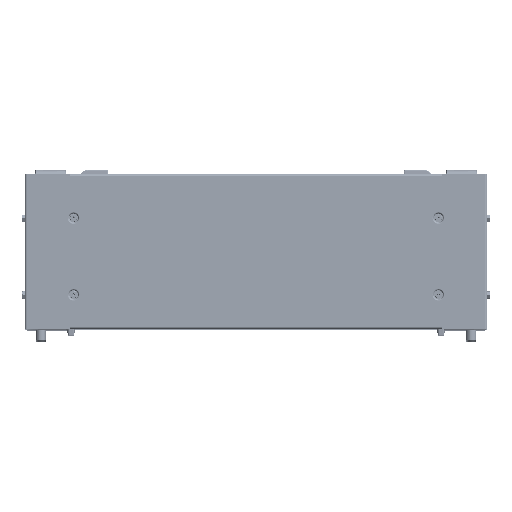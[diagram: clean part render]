
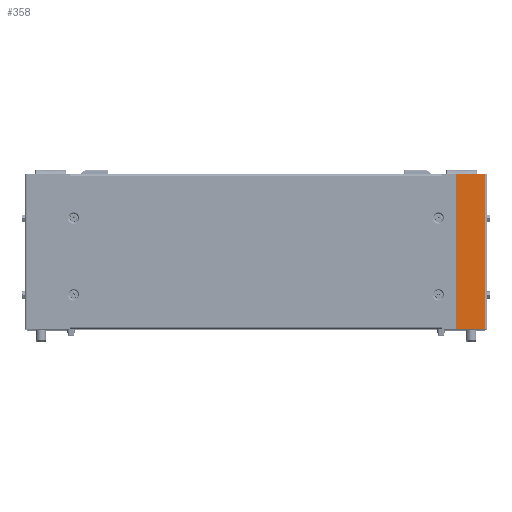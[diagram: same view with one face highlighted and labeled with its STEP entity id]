
A CAD part, top view. The second image highlights one B-rep face of the part: STEP entity #358.
In plain terms, the highlighted planar face has unit normal (0, 0, 1) as drawn and (-1, 0, 0) by its records, which use the part's own axes.
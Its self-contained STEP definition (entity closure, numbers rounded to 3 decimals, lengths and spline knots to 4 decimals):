
#254 = VERTEX_POINT ( 'NONE', #39638 ) ;
#291 = EDGE_CURVE ( 'NONE', #292, #254, #39715, .T. ) ;
#292 = VERTEX_POINT ( 'NONE', #39706 ) ;
#302 = EDGE_CURVE ( 'NONE', #317, #254, #39694, .T. ) ;
#317 = VERTEX_POINT ( 'NONE', #39726 ) ;
#330 = ORIENTED_EDGE ( 'NONE', *, *, #302, .F. ) ;
#331 = ORIENTED_EDGE ( 'NONE', *, *, #357, .T. ) ;
#332 = ORIENTED_EDGE ( 'NONE', *, *, #333, .T. ) ;
#333 = EDGE_CURVE ( 'NONE', #355, #292, #39766, .T. ) ;
#334 = ORIENTED_EDGE ( 'NONE', *, *, #291, .T. ) ;
#355 = VERTEX_POINT ( 'NONE', #39796 ) ;
#357 = EDGE_CURVE ( 'NONE', #317, #355, #39795, .T. ) ;
#358 = ADVANCED_FACE ( 'NONE', ( #39791 ), #39790, .F. ) ;
#359 = EDGE_LOOP ( 'NONE', ( #330, #331, #332, #334 ) ) ;
#39638 = CARTESIAN_POINT ( 'NONE',  ( -13.7558, 3.6785, 0.115 ) ) ;
#39691 = DIRECTION ( 'NONE',  ( 0., 1., 0. ) ) ;
#39692 = VECTOR ( 'NONE', #39691, 39.3701 ) ;
#39693 = CARTESIAN_POINT ( 'NONE',  ( -13.7558, 3.6785, 0.115 ) ) ;
#39694 = LINE ( 'NONE', #39693, #39692 ) ;
#39706 = CARTESIAN_POINT ( 'NONE',  ( -13.7558, 3.6785, 1.492 ) ) ;
#39707 = DIRECTION ( 'NONE',  ( 0., 0., -1. ) ) ;
#39708 = VECTOR ( 'NONE', #39707, 39.3701 ) ;
#39709 = CARTESIAN_POINT ( 'NONE',  ( -13.7558, 3.6785, 1.492 ) ) ;
#39715 = LINE ( 'NONE', #39709, #39708 ) ;
#39726 = CARTESIAN_POINT ( 'NONE',  ( -13.7558, -3.6785, 0.115 ) ) ;
#39763 = DIRECTION ( 'NONE',  ( 0., 1., 0. ) ) ;
#39764 = VECTOR ( 'NONE', #39763, 39.3701 ) ;
#39765 = CARTESIAN_POINT ( 'NONE',  ( -13.7558, 3.6785, 1.492 ) ) ;
#39766 = LINE ( 'NONE', #39765, #39764 ) ;
#39785 = DIRECTION ( 'NONE',  ( 0., 0., -1. ) ) ;
#39786 = DIRECTION ( 'NONE',  ( 1., 0., 0. ) ) ;
#39787 = CARTESIAN_POINT ( 'NONE',  ( -13.7558, 3.6785, 1.492 ) ) ;
#39789 = AXIS2_PLACEMENT_3D ( 'NONE', #39787, #39786, #39785 ) ;
#39790 = PLANE ( 'NONE',  #39789 ) ;
#39791 = FACE_OUTER_BOUND ( 'NONE', #359, .T. ) ;
#39792 = DIRECTION ( 'NONE',  ( 0., 0., 1. ) ) ;
#39793 = VECTOR ( 'NONE', #39792, 39.3701 ) ;
#39794 = CARTESIAN_POINT ( 'NONE',  ( -13.7558, -3.6785, 1.492 ) ) ;
#39795 = LINE ( 'NONE', #39794, #39793 ) ;
#39796 = CARTESIAN_POINT ( 'NONE',  ( -13.7558, -3.6785, 1.492 ) ) ;
